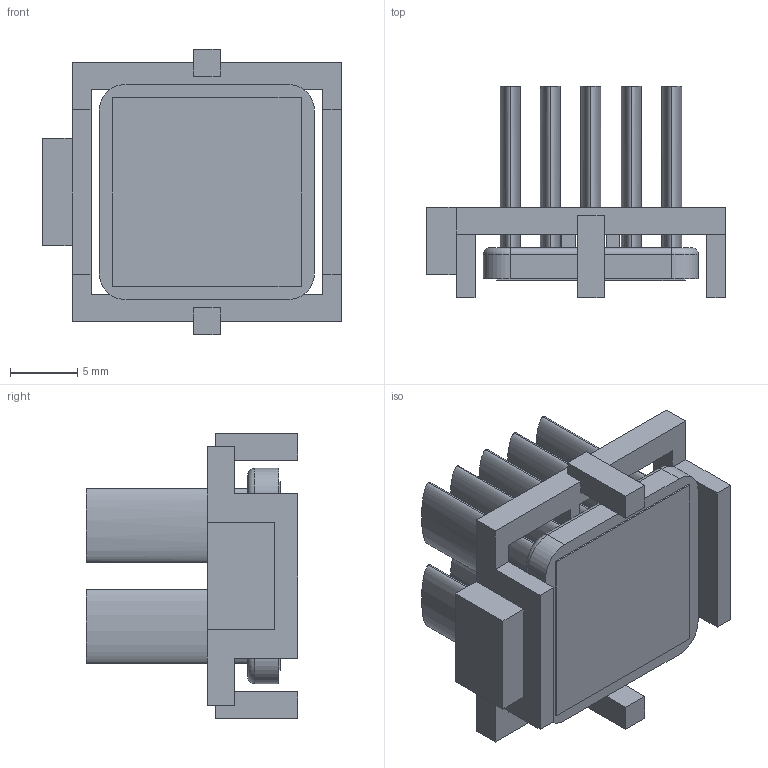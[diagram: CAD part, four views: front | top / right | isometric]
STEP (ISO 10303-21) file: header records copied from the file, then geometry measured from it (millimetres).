
FILE_DESCRIPTION (( 'STEP AP214' ), '1' );
FILE_NAME ('INM16001-14W-2.3Y.STEP', '2023-03-29T23:22:13', ( '' ), ( '' ), 'SwSTEP 2.0', 'SolidWorks 2020', '' );
FILE_SCHEMA (( 'AUTOMOTIVE_DESIGN' ));
Length unit declared in the file: millimetre
Products named in the file (1): INM16001-14W-2.3Y
Bounding box: 22.2 x 15.7 x 21.2 mm (x, y, z)
Volume: 1950.9 mm3; surface area: 3497 mm2
Topology: 3 solids, 3 shells, 99 faces, 244 edges, 160 vertices
Faces by surface type: plane 67, bspline 20, cylinder 8, torus 4
Entity records: 4079 total; most frequent: CARTESIAN_POINT 764, ORIENTED_EDGE 488, DIRECTION 384, EDGE_CURVE 244, LINE 184, VECTOR 184, VERTEX_POINT 160, EDGE_LOOP 110
